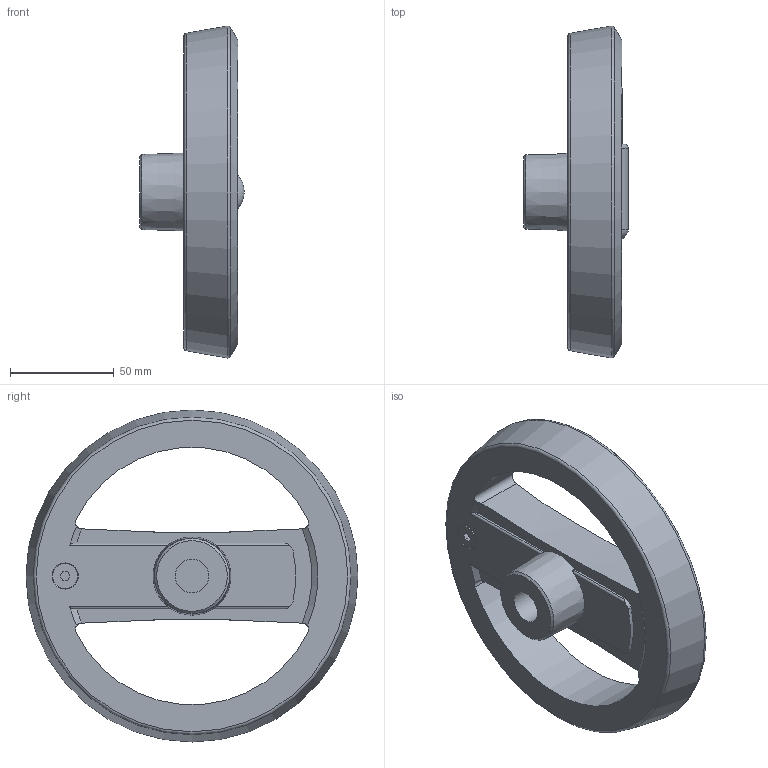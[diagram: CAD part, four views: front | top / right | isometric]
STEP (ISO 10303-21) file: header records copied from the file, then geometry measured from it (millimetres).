
FILE_DESCRIPTION( ( 'STEP AP203' ), '1' );
FILE_NAME( 'C:/Temp/Ganter_Step_05_03_2020/data/1_3/gn_924_3/gn_924_3_b/Handwheel with retractable handle GN 924.3-160-B16-R-SW (unactivated).stp', '2020-03-05T10:40:55', ( 'License CC BY-ND 4.0' ), ( 'CADENAS' ), ' ', 'PARTsolutions', ' ' );
FILE_SCHEMA( ( 'CONFIG_CONTROL_DESIGN' ) );
Length unit declared in the file: millimetre
Products named in the file (3): Handwheel with retractable handle GN 924.3-160-B16-R-SW (unactivated); _Umleggriff-Handrad GN 924.3-160-B16-R-SW-1; _Umleggriff-Handrad GN 924.3-160-B16-R-SW-2
Assembly tree (2 placements, depth 2):
  Handwheel with retractable handle GN 924.3-160-B16-R-SW (unactivated)
    _Umleggriff-Handrad GN 924.3-160-B16-R-SW-1
    _Umleggriff-Handrad GN 924.3-160-B16-R-SW-2
Bounding box: 50.2 x 159.68 x 159.68 mm (x, y, z)
Volume: 292637.3 mm3; surface area: 65497.1 mm2
Topology: 2 solids, 2 shells, 108 faces, 280 edges, 180 vertices
Faces by surface type: plane 46, cylinder 41, cone 12, torus 7, sphere 2
Full cylindrical faces by diameter (mm): 4 x4, 5 x1, 10 x1, 12 x1, 16 x1, 18.5 x1, 24 x1, 25 x1, 25.6 x1
Entity records: 3560 total; most frequent: CARTESIAN_POINT 951, DIRECTION 522, ORIENTED_EDGE 488, EDGE_CURVE 244, AXIS2_PLACEMENT_3D 212, VERTEX_POINT 175, EDGE_LOOP 148, FACE_OUTER_BOUND 127
